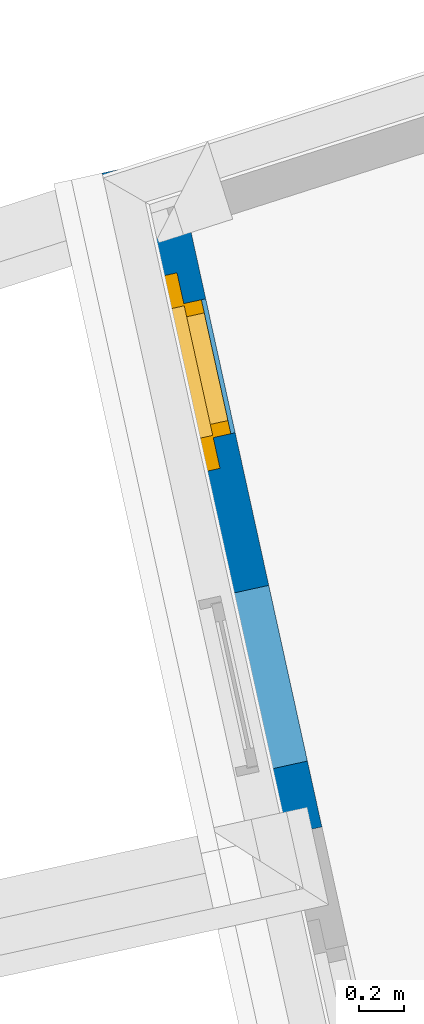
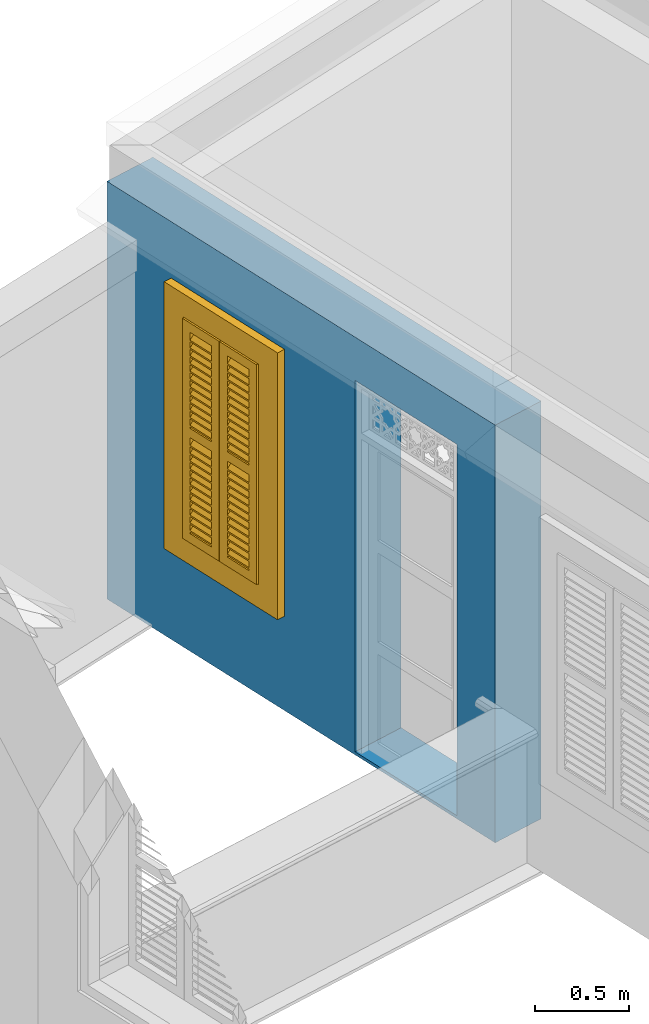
# One storey, part 13 of 17: 1 wall, 1 window, 2 openings.
"""IFC4 building model written with IfcOpenShell, lengths in metres."""

import ifcopenshell
import ifcopenshell.guid

model = None  # the IFC model being written
_history = None  # IfcOwnerHistory: only IFC2X3 demands one
_inside = {}  # id of a spatial element -> (the spatial element, [elements in it])
_under = {}  # id of a project, library or spatial element -> (it, [spatial elements below it])
_declared = {}  # id of a project -> (the project, [libraries it declares])
_typed = {}  # id of a type object -> (the type object, [elements of that type])
_made_of = {}  # id of a material, layer set ... -> (it, [elements and type objects made of it])


def new_model(schema):
    """Start an empty IFC model of exactly this schema.

    Asked for "IFC4X3", IfcOpenShell would pick the latest addendum, in which some entities
    have other attributes; the version numbers below select the first issue.
    IFC2X3 requires an IfcOwnerHistory on every rooted entity: one is made here for all.
    """
    global model, _history
    if schema == "IFC4X3":
        model = ifcopenshell.file(schema_version=(4, 3, 0, 0))
    else:
        model = ifcopenshell.file(schema=schema)
    _inside.clear()
    _under.clear()
    _declared.clear()
    _typed.clear()
    _made_of.clear()
    _history = None
    if model.schema == "IFC2X3":
        org = make("IfcOrganization", Name="unknown")
        user = make(
            "IfcPersonAndOrganization",
            ThePerson=make("IfcPerson", FamilyName="unknown"),
            TheOrganization=org,
        )
        app = make(
            "IfcApplication",
            ApplicationDeveloper=org,
            Version="unknown",
            ApplicationFullName="unknown",
            ApplicationIdentifier="unknown",
        )
        _history = make(
            "IfcOwnerHistory",
            OwningUser=user,
            OwningApplication=app,
            ChangeAction="ADDED",
            CreationDate=0,
        )
    return model


def make(cls, **values):
    """One entity of the class cls with the attributes given. An attribute that is None is left unset."""
    return model.create_entity(
        cls, **{name: value for name, value in values.items() if value is not None}
    )


def rooted(cls, **values):
    """An entity with a GlobalId (a new one), such as an element, a storey or a relation."""
    return make(cls, GlobalId=ifcopenshell.guid.new(), OwnerHistory=_history, **values)


def si_unit(unit_type, name, prefix=None):
    """IfcSIUnit, for example si_unit("LENGTHUNIT", "METRE", prefix="MILLI")."""
    return make("IfcSIUnit", UnitType=unit_type, Prefix=prefix, Name=name)


def assignment(units):
    """IfcUnitAssignment: the units of a project."""
    return None if units is None else make("IfcUnitAssignment", Units=units)


def point(xyz):
    """IfcCartesianPoint."""
    return None if xyz is None else make("IfcCartesianPoint", Coordinates=xyz)


def direction(xyz):
    """IfcDirection."""
    return None if xyz is None else make("IfcDirection", DirectionRatios=xyz)


def frame(location, z_axis=None, x_axis=None):
    """IfcAxis2Placement3D, a coordinate frame: its origin and axes. An axis left out is left unset."""
    return make(
        "IfcAxis2Placement3D",
        Location=point(location),
        Axis=direction(z_axis),
        RefDirection=direction(x_axis),
    )


def origin():
    """The frame at (0, 0, 0) with its axes left unset."""
    return frame((0.0, 0.0, 0.0))


def origin_with_axes():
    """The frame at (0, 0, 0) with the z axis (0, 0, 1) and the x axis (1, 0, 0) written out."""
    return frame((0.0, 0.0, 0.0), z_axis=(0.0, 0.0, 1.0), x_axis=(1.0, 0.0, 0.0))


def place(relative_to, where):
    """IfcLocalPlacement: puts the frame where relative to a parent placement (None: the world)."""
    return make(
        "IfcLocalPlacement", PlacementRelTo=relative_to, RelativePlacement=where
    )


def context(
    kind, dimensions, precision=None, world=None, true_north=None, identifier=None
):
    """IfcGeometricRepresentationContext, for example the 3D "Model" context."""
    return make(
        "IfcGeometricRepresentationContext",
        ContextIdentifier=identifier,
        ContextType=kind,
        CoordinateSpaceDimension=dimensions,
        Precision=precision,
        WorldCoordinateSystem=world,
        TrueNorth=true_north,
    )


def subcontext(parent, identifier, kind, view, scale=None):
    """IfcGeometricRepresentationSubContext, for example "Body" below "Model"."""
    return make(
        "IfcGeometricRepresentationSubContext",
        ContextIdentifier=identifier,
        ContextType=kind,
        ParentContext=parent,
        TargetScale=scale,
        TargetView=view,
    )


def project(units=None, contexts=None):
    """IfcProject with its units and contexts."""
    return rooted(
        "IfcProject",
        Name="project",
        RepresentationContexts=contexts,
        UnitsInContext=assignment(units),
    )


def spatial(cls, under=None, at=None, **own):
    """A site, building, storey or space (cls), placed at a placement, below another one or the project."""
    s = rooted(cls, ObjectPlacement=at, **own)
    if under is not None:
        _under.setdefault(under.id(), (under, []))[1].append(s)
    return s


def polyline(points):
    """IfcPolyline through the points."""
    return make("IfcPolyline", Points=[point(p) for p in points])


def outline(outer, holes=None, kind="AREA"):
    """IfcArbitraryClosedProfileDef: a profile drawn as a closed curve; with holes, ...WithVoids."""
    if holes is None:
        return make("IfcArbitraryClosedProfileDef", ProfileType=kind, OuterCurve=outer)
    return make(
        "IfcArbitraryProfileDefWithVoids",
        ProfileType=kind,
        OuterCurve=outer,
        InnerCurves=holes,
    )


def extrude(swept, where, along, depth):
    """IfcExtrudedAreaSolid: the profile swept, set in the frame where, extruded along a direction by depth."""
    return make(
        "IfcExtrudedAreaSolid",
        SweptArea=swept,
        Position=where,
        ExtrudedDirection=direction(along),
        Depth=depth,
    )


def faces_of(points, faces, orient=None, outer=None):
    """IfcFace entities. A face is a list of loops; a loop is a list of indices into points, from 0.

    orient and outer hold one flag for each loop. By default every Orientation is true, the
    first loop of a face is its IfcFaceOuterBound and the others are IfcFaceBound.
    """
    made = []
    for i, loops in enumerate(faces):
        bounds = []
        for j, loop in enumerate(loops):
            is_outer = j == 0 if outer is None else outer[i][j]
            bounds.append(
                make(
                    "IfcFaceOuterBound" if is_outer else "IfcFaceBound",
                    Bound=make("IfcPolyLoop", Polygon=[points[k] for k in loop]),
                    Orientation=True if orient is None else orient[i][j],
                )
            )
        made.append(make("IfcFace", Bounds=bounds))
    return made


def faceted_brep(points, faces, orient=None, outer=None, voids=None):
    """IfcFacetedBrep: a solid bounded by flat faces; with voids (closed shells), ...WithVoids."""
    shared = [point(p) for p in points]
    hull = make("IfcClosedShell", CfsFaces=faces_of(shared, faces, orient, outer))
    if voids is None:
        return make("IfcFacetedBrep", Outer=hull)
    return make(
        "IfcFacetedBrepWithVoids",
        Outer=hull,
        Voids=[
            make(cls, CfsFaces=faces_of(shared, fs, o, b)) for cls, fs, o, b in voids
        ],
    )


def shape(context_of_items, identifier, shape_type, items):
    """IfcShapeRepresentation: the items that make up one representation, for example the "Body"."""
    return make(
        "IfcShapeRepresentation",
        ContextOfItems=context_of_items,
        RepresentationIdentifier=identifier,
        RepresentationType=shape_type,
        Items=items,
    )


def source(mapping_origin, context_of_items, identifier, shape_type, items):
    """IfcRepresentationMap: a shape defined once, which mapped items show again and again."""
    return make(
        "IfcRepresentationMap",
        MappingOrigin=mapping_origin,
        MappedRepresentation=shape(context_of_items, identifier, shape_type, items),
    )


def transform(
    local_origin,
    x_axis=None,
    y_axis=None,
    z_axis=None,
    scale=None,
    scale2=None,
    scale3=None,
    uniform=True,
):
    """IfcCartesianTransformationOperator3D, or its non-uniform kind. x_axis, y_axis, z_axis: its Axis1, 2, 3."""
    if uniform:
        return make(
            "IfcCartesianTransformationOperator3D",
            Axis1=direction(x_axis),
            Axis2=direction(y_axis),
            LocalOrigin=point(local_origin),
            Scale=scale,
            Axis3=direction(z_axis),
        )
    return make(
        "IfcCartesianTransformationOperator3DnonUniform",
        Axis1=direction(x_axis),
        Axis2=direction(y_axis),
        LocalOrigin=point(local_origin),
        Scale=scale,
        Axis3=direction(z_axis),
        Scale2=scale2,
        Scale3=scale3,
    )


def mapped(mapping_source, mapping_target):
    """IfcMappedItem: shows the shape of a source again, moved by a transform."""
    return make(
        "IfcMappedItem", MappingSource=mapping_source, MappingTarget=mapping_target
    )


def material(Name=None, Category=None):
    """IfcMaterial."""
    return make("IfcMaterial", Name=Name, Category=Category)


def layer(
    of_material, thickness, ventilated=None, Name=None, Category=None, Priority=None
):
    """IfcMaterialLayer: one layer of a wall or slab, of a material (None: an air gap)."""
    return make(
        "IfcMaterialLayer",
        Material=of_material,
        LayerThickness=thickness,
        IsVentilated=ventilated,
        Name=Name,
        Category=Category,
        Priority=Priority,
    )


def layer_set(layers, Name=None):
    """IfcMaterialLayerSet."""
    return make("IfcMaterialLayerSet", MaterialLayers=layers, LayerSetName=Name)


def layer_usage(for_layer_set, set_direction, sense, offset, extent=None):
    """IfcMaterialLayerSetUsage: how a layer set lies in its element."""
    return make(
        "IfcMaterialLayerSetUsage",
        ForLayerSet=for_layer_set,
        LayerSetDirection=set_direction,
        DirectionSense=sense,
        OffsetFromReferenceLine=offset,
        ReferenceExtent=extent,
    )


def made_of(thing, what):
    """Note that an element or type object is made of a material, layer set ...; save() writes the relation."""
    if what is not None:
        _made_of.setdefault(what.id(), (what, []))[1].append(thing)
    return thing


def type_object(cls, material=None, **own):
    """A type object (cls), such as IfcWallType, which elements share."""
    return made_of(rooted(cls, **own), material)


def type_shapes(of_type, sources):
    """Give a type object the sources (RepresentationMaps) that its elements show as mapped items."""
    of_type.RepresentationMaps = sources


def element(
    cls,
    number,
    at=None,
    inside=None,
    cuts=None,
    type_object=None,
    material=None,
    context=None,
    identifier="Body",
    shape_type=None,
    held_by="IfcProductDefinitionShape",
    body=None,
    shapes=None,
    **own,
):
    """One element of the class cls, such as IfcWall. Its Tag is "e" and its number.

    at: its placement. inside: the storey or other place that contains it. cuts: it is an
    opening in that element (IfcRelVoidsElement). A single representation is given by context,
    identifier, shape_type and body (its items); several are given by shapes. held_by: the class
    of the entity that holds the representations. save() writes the other relations.
    """
    e = rooted(cls, Tag="e%d" % number, ObjectPlacement=at, **own)
    if body is not None:
        shapes = [shape(context, identifier, shape_type, body)]
    if shapes is not None:
        e.Representation = make(held_by, Representations=shapes)
    if inside is not None:
        _inside.setdefault(inside.id(), (inside, []))[1].append(e)
    if cuts is not None:
        rooted(
            "IfcRelVoidsElement", RelatingBuildingElement=cuts, RelatedOpeningElement=e
        )
    if type_object is not None:
        _typed.setdefault(type_object.id(), (type_object, []))[1].append(e)
    return made_of(e, material)


def fill(opening, filler):
    """IfcRelFillsElement: the door or window that sits in an opening."""
    return rooted(
        "IfcRelFillsElement",
        RelatingOpeningElement=opening,
        RelatedBuildingElement=filler,
    )


def aggregate(whole, parts):
    """IfcRelAggregates: a whole, such as a stair, and the parts it consists of."""
    return rooted("IfcRelAggregates", RelatingObject=whole, RelatedObjects=parts)


def save(model, path):
    """Write the relations noted so far, then the file.

    IfcRelAggregates (storeys below a building ...), IfcRelContainedInSpatialStructure (elements
    in a storey), IfcRelDefinesByType, IfcRelAssociatesMaterial and IfcRelDeclares: one each for
    every whole, place, type object, material and project.
    """
    for whole, parts in _under.values():
        aggregate(whole, parts)
    for where, things in _inside.values():
        rooted(
            "IfcRelContainedInSpatialStructure",
            RelatedElements=things,
            RelatingStructure=where,
        )
    for kind, things in _typed.values():
        rooted("IfcRelDefinesByType", RelatedObjects=things, RelatingType=kind)
    for what, things in _made_of.values():
        rooted("IfcRelAssociatesMaterial", RelatedObjects=things, RelatingMaterial=what)
    for by, libraries in _declared.values():
        rooted("IfcRelDeclares", RelatingContext=by, RelatedDefinitions=libraries)
    model.write(path)


model = new_model("IFC4")

# Units and contexts
model_context = context("Model", 3, world=origin_with_axes())
body_context = subcontext(model_context, "Body", "Model", "MODEL_VIEW")
ifc_project = project(units=[si_unit("PLANEANGLEUNIT", "RADIAN"), si_unit("MASSUNIT", "GRAM", prefix="KILO"), si_unit("FORCEUNIT", "NEWTON", prefix="KILO"), si_unit("LENGTHUNIT", "METRE"), si_unit("AREAUNIT", "SQUARE_METRE"), si_unit("VOLUMEUNIT", "CUBIC_METRE")], contexts=[model_context, model_context])

# Site, building, storey
site_placement = place(None, origin_with_axes())
site = spatial("IfcSite", under=ifc_project, at=site_placement, Name="Site plot-2", CompositionType="ELEMENT")
building_placement = place(None, origin_with_axes())
building = spatial("IfcBuilding", under=site, at=building_placement, Name="Building plot-2", CompositionType="ELEMENT")
storey_placement = place(None, frame((0.0, 0.0, 2.85), z_axis=(0.0, 0.0, 1.0), x_axis=(1.0, 0.0, 0.0)))
storey = spatial("IfcBuildingStorey", under=building, at=storey_placement, Name="plot-2 1", CompositionType="ELEMENT", Elevation=2.85)

# Wall, openings, window
ifc_material = material(Name="Masonry")
ifc_layer = layer(ifc_material, 0.33, ventilated=False)
ifc_layer_set = layer_set([ifc_layer], Name="exterior_0.08_0.25")
ifc_layer_usage = layer_usage(ifc_layer_set, "AXIS2", "POSITIVE", -0.25)
wall_type = type_object("IfcWallType", Name="exterior_0.08_0.25", PredefinedType="SOLIDWALL", material=ifc_layer_set)
wall_placement = place(storey_placement, frame((14.8834946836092, 16.0532428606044, 0.0), z_axis=(0.0, 0.0, 1.0), x_axis=(0.214808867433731, -0.976656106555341, 0.0)))
wall = element("IfcWall", 1, at=wall_placement, inside=storey, type_object=wall_type, material=ifc_layer_usage, Name="exterior", context=body_context, shape_type="SweptSolid", body=[
    extrude(outline(polyline([(-0.249999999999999, 0.0800000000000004), (-0.249999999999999, -0.25), (2.79897850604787, -0.25), (2.79897850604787, 0.0800000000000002), (-0.249999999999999, 0.0800000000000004)])), origin_with_axes(), (0.0, 0.0, 1.0), 2.7),
])
opening_1_placement = place(wall_placement, frame((0.394744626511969, 0.0, 0.75)))
opening_1 = element("IfcOpeningElement", 2, at=opening_1_placement, cuts=wall, Name="My Opening", ObjectType="Opening", context=body_context, shape_type="SweptSolid", body=[
    extrude(outline(polyline([(0.0, -0.27), (0.609999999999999, -0.270000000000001), (0.61, 1.1), (5.55111512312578e-16, 1.1), (0.0, -0.27)])), origin_with_axes(), (0.0, 0.0, 1.0), 1.445),
])
opening_2_placement = place(wall_placement, frame((1.6992338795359, 0.0, 0.02)))
element("IfcOpeningElement", 3, at=opening_2_placement, cuts=wall, Name="My Opening", ObjectType="Opening", context=body_context, shape_type="SweptSolid", body=[
    extrude(outline(polyline([(0.0, -0.27), (0.800000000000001, -0.270000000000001), (0.800000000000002, 1.1), (6.66133814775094e-16, 1.1), (0.0, -0.27)])), origin_with_axes(), (0.0, 0.0, 1.0), 2.4),
])
window_type = type_object("IfcWindowType", Name="shuttered_shorter_narrow", PartitioningType="DOUBLE_PANEL_HORIZONTAL", PredefinedType="NOTDEFINED")
shared_shape = source(origin(), body_context, "Body", "Brep", [
    faceted_brep([(0.243, 0.0, 0.622), (0.074, 0.0, 0.622), (0.074, 0.0, 0.632), (0.243, 0.0, 0.632), (0.074, -0.04, 0.592), (0.243, -0.04, 0.592), (0.243, -0.04, 0.582), (0.074, -0.04, 0.582), (0.367, 0.0, 0.682), (0.536, 0.0, 0.682), (0.536, 0.0, 0.672), (0.367, 0.0, 0.672), (0.367, -0.04, 0.642), (0.536, -0.04, 0.642), (0.536, -0.04, 0.632), (0.367, -0.04, 0.632), (0.367, 0.0, 0.632), (0.536, 0.0, 0.632), (0.536, 0.0, 0.622), (0.367, 0.0, 0.622), (0.367, -0.04, 0.592), (0.536, -0.04, 0.592), (0.536, -0.04, 0.582), (0.367, -0.04, 0.582), (0.367, 0.0, 0.232), (0.536, 0.0, 0.232), (0.536, 0.0, 0.222), (0.367, 0.0, 0.222), (0.367, -0.04, 0.192), (0.536, -0.04, 0.192), (0.536, -0.04, 0.182), (0.367, -0.04, 0.182), (0.367, 0.0, 0.532), (0.536, 0.0, 0.532), (0.536, 0.0, 0.522), (0.367, 0.0, 0.522), (0.367, -0.04, 0.492), (0.536, -0.04, 0.492), (0.536, -0.04, 0.482), (0.367, -0.04, 0.482), (0.367, 0.0, 0.482), (0.536, 0.0, 0.482), (0.536, 0.0, 0.472), (0.367, 0.0, 0.472), (0.367, -0.04, 0.442), (0.536, -0.04, 0.442), (0.536, -0.04, 0.432), (0.367, -0.04, 0.432), (0.367, 0.0, 0.582), (0.536, 0.0, 0.582), (0.536, 0.0, 0.572), (0.367, 0.0, 0.572), (0.367, -0.04, 0.542), (0.536, -0.04, 0.542), (0.536, -0.04, 0.532), (0.367, -0.04, 0.532), (0.367, 0.0, 0.182), (0.536, 0.0, 0.182), (0.536, 0.0, 0.172), (0.367, 0.0, 0.172), (0.367, -0.04, 0.142), (0.536, -0.04, 0.142), (0.536, -0.04, 0.132), (0.367, -0.04, 0.132), (0.367, 0.0, 0.382), (0.536, 0.0, 0.382), (0.536, 0.0, 0.372), (0.367, 0.0, 0.372), (0.367, -0.04, 0.342), (0.536, -0.04, 0.342), (0.536, -0.04, 0.332), (0.367, -0.04, 0.332), (0.367, 0.0, 0.432), (0.536, 0.0, 0.432), (0.536, 0.0, 0.422), (0.367, 0.0, 0.422), (0.367, -0.04, 0.392), (0.536, -0.04, 0.392), (0.536, -0.04, 0.382), (0.367, -0.04, 0.382), (0.367, 0.0, 0.132), (0.536, 0.0, 0.132), (0.536, 0.0, 0.122), (0.367, 0.0, 0.122), (0.367, -0.04, 0.092), (0.536, -0.04, 0.092), (0.536, -0.04, 0.082), (0.367, -0.04, 0.082), (0.367, 0.0, 0.282), (0.536, 0.0, 0.282), (0.536, 0.0, 0.272), (0.367, 0.0, 0.272), (0.367, -0.04, 0.242), (0.536, -0.04, 0.242), (0.536, -0.04, 0.232), (0.367, -0.04, 0.232), (0.367, 0.0, 0.332), (0.536, 0.0, 0.332), (0.536, 0.0, 0.322), (0.367, 0.0, 0.322), (0.367, -0.04, 0.292), (0.536, -0.04, 0.292), (0.536, -0.04, 0.282), (0.367, -0.04, 0.282), (0.367, 0.0, 1.362667), (0.536, 0.0, 1.362667), (0.536, 0.0, 1.352667), (0.367, 0.0, 1.352667), (0.367, -0.04, 1.322667), (0.536, -0.04, 1.322667), (0.536, -0.04, 1.312667), (0.367, -0.04, 1.312667), (0.367, 0.0, 1.312667), (0.536, 0.0, 1.312667), (0.536, 0.0, 1.302667), (0.367, 0.0, 1.302667), (0.367, -0.04, 1.272667), (0.536, -0.04, 1.272667), (0.536, -0.04, 1.262667), (0.367, -0.04, 1.262667), (0.367, 0.0, 0.912667), (0.536, 0.0, 0.912667), (0.536, 0.0, 0.902667), (0.367, 0.0, 0.902667), (0.367, -0.04, 0.872667), (0.536, -0.04, 0.872667), (0.536, -0.04, 0.862667), (0.367, -0.04, 0.862667), (0.367, 0.0, 1.212667), (0.536, 0.0, 1.212667), (0.536, 0.0, 1.202667), (0.367, 0.0, 1.202667), (0.367, -0.04, 1.172667), (0.536, -0.04, 1.172667), (0.536, -0.04, 1.162667), (0.367, -0.04, 1.162667), (0.367, 0.0, 1.162667), (0.536, 0.0, 1.162667), (0.536, 0.0, 1.152667), (0.367, 0.0, 1.152667), (0.367, -0.04, 1.122667), (0.536, -0.04, 1.122667), (0.536, -0.04, 1.112667), (0.367, -0.04, 1.112667), (0.367, 0.0, 1.262667), (0.536, 0.0, 1.262667), (0.536, 0.0, 1.252667), (0.367, 0.0, 1.252667), (0.367, -0.04, 1.222667), (0.536, -0.04, 1.222667), (0.536, -0.04, 1.212667), (0.367, -0.04, 1.212667), (0.367, 0.0, 0.862667), (0.536, 0.0, 0.862667), (0.536, 0.0, 0.852667), (0.367, 0.0, 0.852667), (0.367, -0.04, 0.822667), (0.536, -0.04, 0.822667), (0.536, -0.04, 0.812667), (0.367, -0.04, 0.812667), (0.367, 0.0, 1.062667), (0.536, 0.0, 1.062667), (0.536, 0.0, 1.052667), (0.367, 0.0, 1.052667), (0.367, -0.04, 1.022667), (0.536, -0.04, 1.022667), (0.536, -0.04, 1.012667), (0.367, -0.04, 1.012667), (0.367, 0.0, 1.112667), (0.536, 0.0, 1.112667), (0.536, 0.0, 1.102667), (0.367, 0.0, 1.102667), (0.367, -0.04, 1.072667), (0.536, -0.04, 1.072667), (0.536, -0.04, 1.062667), (0.367, -0.04, 1.062667), (0.367, 0.0, 0.812667), (0.536, 0.0, 0.812667), (0.536, 0.0, 0.802667), (0.367, 0.0, 0.802667), (0.367, -0.04, 0.772667), (0.536, -0.04, 0.772667), (0.536, -0.04, 0.762667), (0.367, -0.04, 0.762667), (0.367, 0.0, 0.962667), (0.536, 0.0, 0.962667), (0.536, 0.0, 0.952667), (0.367, 0.0, 0.952667), (0.367, -0.04, 0.922667), (0.536, -0.04, 0.922667), (0.536, -0.04, 0.912667), (0.367, -0.04, 0.912667), (0.367, 0.0, 1.012667), (0.536, 0.0, 1.012667), (0.536, 0.0, 1.002667), (0.367, 0.0, 1.002667), (0.367, -0.04, 0.972667), (0.536, -0.04, 0.972667), (0.536, -0.04, 0.962667), (0.367, -0.04, 0.962667), (0.074, 0.0, 0.682), (0.243, 0.0, 0.682), (0.243, 0.0, 0.672), (0.074, 0.0, 0.672), (0.074, -0.04, 0.642), (0.243, -0.04, 0.642), (0.243, -0.04, 0.632), (0.074, -0.04, 0.632), (0.074, 0.0, 0.232), (0.243, 0.0, 0.232), (0.243, 0.0, 0.222), (0.074, 0.0, 0.222), (0.074, -0.04, 0.192), (0.243, -0.04, 0.192), (0.243, -0.04, 0.182), (0.074, -0.04, 0.182), (0.074, 0.0, 0.532), (0.243, 0.0, 0.532), (0.243, 0.0, 0.522), (0.074, 0.0, 0.522), (0.074, -0.04, 0.492), (0.243, -0.04, 0.492), (0.243, -0.04, 0.482), (0.074, -0.04, 0.482), (0.074, 0.0, 0.482), (0.243, 0.0, 0.482), (0.243, 0.0, 0.472), (0.074, 0.0, 0.472), (0.074, -0.04, 0.442), (0.243, -0.04, 0.442), (0.243, -0.04, 0.432), (0.074, -0.04, 0.432), (0.074, 0.0, 0.582), (0.243, 0.0, 0.582), (0.243, 0.0, 0.572), (0.074, 0.0, 0.572), (0.074, -0.04, 0.542), (0.243, -0.04, 0.542), (0.243, -0.04, 0.532), (0.074, -0.04, 0.532), (0.074, 0.0, 0.182), (0.243, 0.0, 0.182), (0.243, 0.0, 0.172), (0.074, 0.0, 0.172), (0.074, -0.04, 0.142), (0.243, -0.04, 0.142), (0.243, -0.04, 0.132), (0.074, -0.04, 0.132), (0.074, 0.0, 0.382), (0.243, 0.0, 0.382), (0.243, 0.0, 0.372), (0.074, 0.0, 0.372), (0.074, -0.04, 0.342), (0.243, -0.04, 0.342), (0.243, -0.04, 0.332), (0.074, -0.04, 0.332), (0.074, 0.0, 0.432), (0.243, 0.0, 0.432), (0.243, 0.0, 0.422), (0.074, 0.0, 0.422), (0.074, -0.04, 0.392), (0.243, -0.04, 0.392), (0.243, -0.04, 0.382), (0.074, -0.04, 0.382), (0.074, 0.0, 0.132), (0.243, 0.0, 0.132), (0.243, 0.0, 0.122), (0.074, 0.0, 0.122), (0.074, -0.04, 0.092), (0.243, -0.04, 0.092), (0.243, -0.04, 0.082), (0.074, -0.04, 0.082), (0.074, 0.0, 0.282), (0.243, 0.0, 0.282), (0.243, 0.0, 0.272), (0.074, 0.0, 0.272), (0.074, -0.04, 0.242), (0.243, -0.04, 0.242), (0.243, -0.04, 0.232), (0.074, -0.04, 0.232), (0.074, 0.0, 0.332), (0.243, 0.0, 0.332), (0.243, 0.0, 0.322), (0.074, 0.0, 0.322), (0.074, -0.04, 0.292), (0.243, -0.04, 0.292), (0.243, -0.04, 0.282), (0.074, -0.04, 0.282), (0.074, 0.0, 1.362667), (0.243, 0.0, 1.362667), (0.243, 0.0, 1.352667), (0.074, 0.0, 1.352667), (0.074, -0.04, 1.322667), (0.243, -0.04, 1.322667), (0.243, -0.04, 1.312667), (0.074, -0.04, 1.312667), (0.074, 0.0, 1.312667), (0.243, 0.0, 1.312667), (0.243, 0.0, 1.302667), (0.074, 0.0, 1.302667), (0.074, -0.04, 1.272667), (0.243, -0.04, 1.272667), (0.243, -0.04, 1.262667), (0.074, -0.04, 1.262667), (0.074, 0.0, 0.912667), (0.243, 0.0, 0.912667), (0.243, 0.0, 0.902667), (0.074, 0.0, 0.902667), (0.074, -0.04, 0.872667), (0.243, -0.04, 0.872667), (0.243, -0.04, 0.862667), (0.074, -0.04, 0.862667), (0.074, 0.0, 1.212667), (0.243, 0.0, 1.212667), (0.243, 0.0, 1.202667), (0.074, 0.0, 1.202667), (0.074, -0.04, 1.172667), (0.243, -0.04, 1.172667), (0.243, -0.04, 1.162667), (0.074, -0.04, 1.162667), (0.074, 0.0, 1.162667), (0.243, 0.0, 1.162667), (0.243, 0.0, 1.152667), (0.074, 0.0, 1.152667), (0.074, -0.04, 1.122667), (0.243, -0.04, 1.122667), (0.243, -0.04, 1.112667), (0.074, -0.04, 1.112667), (0.074, 0.0, 1.262667), (0.243, 0.0, 1.262667), (0.243, 0.0, 1.252667), (0.074, 0.0, 1.252667), (0.074, -0.04, 1.222667), (0.243, -0.04, 1.222667), (0.243, -0.04, 1.212667), (0.074, -0.04, 1.212667), (0.074, 0.0, 0.862667), (0.243, 0.0, 0.862667), (0.243, 0.0, 0.852667), (0.074, 0.0, 0.852667), (0.074, -0.04, 0.822667), (0.243, -0.04, 0.822667), (0.243, -0.04, 0.812667), (0.074, -0.04, 0.812667), (0.074, 0.0, 1.062667), (0.243, 0.0, 1.062667), (0.243, 0.0, 1.052667), (0.074, 0.0, 1.052667), (0.074, -0.04, 1.022667), (0.243, -0.04, 1.022667), (0.243, -0.04, 1.012667), (0.074, -0.04, 1.012667), (0.074, 0.0, 1.112667), (0.243, 0.0, 1.112667), (0.243, 0.0, 1.102667), (0.074, 0.0, 1.102667), (0.074, -0.04, 1.072667), (0.243, -0.04, 1.072667), (0.243, -0.04, 1.062667), (0.074, -0.04, 1.062667), (0.074, 0.0, 0.812667), (0.243, 0.0, 0.812667), (0.243, 0.0, 0.802667), (0.074, 0.0, 0.802667), (0.074, -0.04, 0.772667), (0.243, -0.04, 0.772667), (0.243, -0.04, 0.762667), (0.074, -0.04, 0.762667), (0.074, 0.0, 0.962667), (0.243, 0.0, 0.962667), (0.243, 0.0, 0.952667), (0.074, 0.0, 0.952667), (0.074, -0.04, 0.922667), (0.243, -0.04, 0.922667), (0.243, -0.04, 0.912667), (0.074, -0.04, 0.912667), (0.074, 0.0, 1.012667), (0.243, 0.0, 1.012667), (0.243, 0.0, 1.002667), (0.074, 0.0, 1.002667), (0.074, -0.04, 0.972667), (0.243, -0.04, 0.972667), (0.243, -0.04, 0.962667), (0.074, -0.04, 0.962667), (0.367, -0.04, 0.072), (0.307, -0.04, 0.012), (0.596, -0.04, 0.012), (0.536, -0.04, 0.072), (0.307, -0.04, 0.692667), (0.367, -0.04, 0.692667), (0.307, 0.0, 0.012), (0.596, 0.0, 0.012), (0.536, -0.04, 0.692667), (0.596, -0.04, 0.692667), (0.536, 0.0, 0.072), (0.367, 0.0, 0.072), (0.307, 0.0, 0.692667), (0.367, 0.0, 0.692667), (0.367, -0.04, 0.752666), (0.307, -0.04, 0.752666), (0.596, 0.0, 0.692667), (0.536, 0.0, 0.692667), (0.536, -0.04, 0.752666), (0.596, -0.04, 0.752666), (0.307, 0.0, 0.752666), (0.307, -0.04, 1.433333), (0.367, -0.04, 1.373333), (0.596, 0.0, 0.752666), (0.536, -0.04, 1.373333), (0.596, -0.04, 1.433333), (0.307, 0.0, 1.433333), (0.367, 0.0, 0.752666), (0.536, 0.0, 0.752666), (0.367, 0.0, 1.373333), (0.596, 0.0, 1.433333), (0.536, 0.0, 1.373333), (0.074, -0.04, 0.072), (0.014, -0.04, 0.012), (0.303, -0.04, 0.012), (0.243, -0.04, 0.072), (0.014, -0.04, 0.692667), (0.074, -0.04, 0.692667), (0.014, 0.0, 0.012), (0.303, 0.0, 0.012), (0.243, -0.04, 0.692667), (0.303, -0.04, 0.692667), (0.243, 0.0, 0.072), (0.074, 0.0, 0.072), (0.014, 0.0, 0.692667), (0.074, 0.0, 0.692667), (0.074, -0.04, 0.752666), (0.014, -0.04, 0.752666), (0.303, 0.0, 0.692667), (0.243, 0.0, 0.692667), (0.243, -0.04, 0.752666), (0.303, -0.04, 0.752666), (0.014, 0.0, 0.752666), (0.014, -0.04, 1.433333), (0.074, -0.04, 1.373333), (0.303, 0.0, 0.752666), (0.243, -0.04, 1.373333), (0.303, -0.04, 1.433333), (0.014, 0.0, 1.433333), (0.074, 0.0, 0.752666), (0.243, 0.0, 0.752666), (0.074, 0.0, 1.373333), (0.303, 0.0, 1.433333), (0.243, 0.0, 1.373333), (0.0, 0.33, 1.445), (0.61, 0.33, 1.445), (0.55, 0.33, 1.385), (0.06, 0.33, 1.385), (0.61, 0.25, 1.445), (0.0, 0.25, 1.445), (0.61, 0.25, 1.445), (0.55, 0.33, 0.06), (0.61, 0.33, 0.0), (0.55, 0.25, 1.385), (0.06, 0.25, 1.385), (0.0, 0.33, 0.0), (0.06, 0.33, 0.06), (0.0, 0.25, 0.0), (0.61, 0.25, 0.0), (0.55, 0.25, 0.06), (0.06, 0.25, 0.06), (0.75, 0.25, 1.585), (-0.14, 0.25, 1.585), (-0.14, -0.03, 1.585), (0.75, -0.03, 1.585), (0.6, -0.03, 1.435), (0.01, -0.03, 1.435), (0.01, 0.25, 1.435), (0.6, 0.25, 1.435), (0.6, 0.25, 0.01), (0.6, -0.03, 0.01), (0.75, -0.03, -0.14), (0.75, 0.25, -0.14), (0.01, -0.03, 0.01), (0.01, 0.25, 0.01), (-0.14, -0.03, -0.14), (-0.14, 0.25, -0.14)], [[[0, 1, 2, 3]], [[4, 5, 3, 2]], [[5, 6, 0, 3]], [[1, 0, 6, 7]], [[2, 1, 7, 4]], [[5, 4, 7, 6]], [[8, 9, 10, 11]], [[12, 13, 9, 8]], [[13, 14, 10, 9]], [[14, 15, 11, 10]], [[15, 12, 8, 11]], [[13, 12, 15, 14]], [[16, 17, 18, 19]], [[20, 21, 17, 16]], [[21, 22, 18, 17]], [[22, 23, 19, 18]], [[23, 20, 16, 19]], [[21, 20, 23, 22]], [[24, 25, 26, 27]], [[28, 29, 25, 24]], [[29, 30, 26, 25]], [[30, 31, 27, 26]], [[31, 28, 24, 27]], [[29, 28, 31, 30]], [[32, 33, 34, 35]], [[36, 37, 33, 32]], [[37, 38, 34, 33]], [[38, 39, 35, 34]], [[39, 36, 32, 35]], [[37, 36, 39, 38]], [[40, 41, 42, 43]], [[44, 45, 41, 40]], [[45, 46, 42, 41]], [[46, 47, 43, 42]], [[47, 44, 40, 43]], [[45, 44, 47, 46]], [[48, 49, 50, 51]], [[52, 53, 49, 48]], [[53, 54, 50, 49]], [[54, 55, 51, 50]], [[55, 52, 48, 51]], [[53, 52, 55, 54]], [[56, 57, 58, 59]], [[60, 61, 57, 56]], [[61, 62, 58, 57]], [[62, 63, 59, 58]], [[63, 60, 56, 59]], [[61, 60, 63, 62]], [[64, 65, 66, 67]], [[68, 69, 65, 64]], [[69, 70, 66, 65]], [[70, 71, 67, 66]], [[71, 68, 64, 67]], [[69, 68, 71, 70]], [[72, 73, 74, 75]], [[76, 77, 73, 72]], [[77, 78, 74, 73]], [[78, 79, 75, 74]], [[79, 76, 72, 75]], [[77, 76, 79, 78]], [[80, 81, 82, 83]], [[84, 85, 81, 80]], [[85, 86, 82, 81]], [[86, 87, 83, 82]], [[87, 84, 80, 83]], [[85, 84, 87, 86]], [[88, 89, 90, 91]], [[92, 93, 89, 88]], [[93, 94, 90, 89]], [[94, 95, 91, 90]], [[95, 92, 88, 91]], [[93, 92, 95, 94]], [[96, 97, 98, 99]], [[100, 101, 97, 96]], [[101, 102, 98, 97]], [[102, 103, 99, 98]], [[103, 100, 96, 99]], [[101, 100, 103, 102]], [[104, 105, 106, 107]], [[108, 109, 105, 104]], [[109, 110, 106, 105]], [[110, 111, 107, 106]], [[111, 108, 104, 107]], [[109, 108, 111, 110]], [[112, 113, 114, 115]], [[116, 117, 113, 112]], [[117, 118, 114, 113]], [[118, 119, 115, 114]], [[119, 116, 112, 115]], [[117, 116, 119, 118]], [[120, 121, 122, 123]], [[124, 125, 121, 120]], [[125, 126, 122, 121]], [[126, 127, 123, 122]], [[127, 124, 120, 123]], [[125, 124, 127, 126]], [[128, 129, 130, 131]], [[132, 133, 129, 128]], [[133, 134, 130, 129]], [[134, 135, 131, 130]], [[135, 132, 128, 131]], [[133, 132, 135, 134]], [[136, 137, 138, 139]], [[140, 141, 137, 136]], [[141, 142, 138, 137]], [[142, 143, 139, 138]], [[139, 143, 140, 136]], [[141, 140, 143, 142]], [[144, 145, 146, 147]], [[148, 149, 145, 144]], [[149, 150, 146, 145]], [[150, 151, 147, 146]], [[151, 148, 144, 147]], [[149, 148, 151, 150]], [[152, 153, 154, 155]], [[156, 157, 153, 152]], [[157, 158, 154, 153]], [[158, 159, 155, 154]], [[159, 156, 152, 155]], [[157, 156, 159, 158]], [[160, 161, 162, 163]], [[164, 165, 161, 160]], [[165, 166, 162, 161]], [[166, 167, 163, 162]], [[167, 164, 160, 163]], [[165, 164, 167, 166]], [[168, 169, 170, 171]], [[172, 173, 169, 168]], [[173, 174, 170, 169]], [[174, 175, 171, 170]], [[175, 172, 168, 171]], [[173, 172, 175, 174]], [[176, 177, 178, 179]], [[180, 181, 177, 176]], [[181, 182, 178, 177]], [[182, 183, 179, 178]], [[183, 180, 176, 179]], [[181, 180, 183, 182]], [[184, 185, 186, 187]], [[188, 189, 185, 184]], [[189, 190, 186, 185]], [[190, 191, 187, 186]], [[191, 188, 184, 187]], [[189, 188, 191, 190]], [[192, 193, 194, 195]], [[196, 197, 193, 192]], [[197, 198, 194, 193]], [[198, 199, 195, 194]], [[199, 196, 192, 195]], [[197, 196, 199, 198]], [[200, 201, 202, 203]], [[204, 205, 201, 200]], [[205, 206, 202, 201]], [[206, 207, 203, 202]], [[207, 204, 200, 203]], [[205, 204, 207, 206]], [[208, 209, 210, 211]], [[212, 213, 209, 208]], [[213, 214, 210, 209]], [[214, 215, 211, 210]], [[215, 212, 208, 211]], [[213, 212, 215, 214]], [[216, 217, 218, 219]], [[220, 221, 217, 216]], [[221, 222, 218, 217]], [[222, 223, 219, 218]], [[223, 220, 216, 219]], [[221, 220, 223, 222]], [[224, 225, 226, 227]], [[228, 229, 225, 224]], [[229, 230, 226, 225]], [[230, 231, 227, 226]], [[231, 228, 224, 227]], [[229, 228, 231, 230]], [[232, 233, 234, 235]], [[236, 237, 233, 232]], [[237, 238, 234, 233]], [[238, 239, 235, 234]], [[239, 236, 232, 235]], [[237, 236, 239, 238]], [[240, 241, 242, 243]], [[244, 245, 241, 240]], [[245, 246, 242, 241]], [[246, 247, 243, 242]], [[247, 244, 240, 243]], [[245, 244, 247, 246]], [[248, 249, 250, 251]], [[252, 253, 249, 248]], [[253, 254, 250, 249]], [[254, 255, 251, 250]], [[255, 252, 248, 251]], [[253, 252, 255, 254]], [[256, 257, 258, 259]], [[260, 261, 257, 256]], [[261, 262, 258, 257]], [[262, 263, 259, 258]], [[263, 260, 256, 259]], [[261, 260, 263, 262]], [[264, 265, 266, 267]], [[268, 269, 265, 264]], [[269, 270, 266, 265]], [[270, 271, 267, 266]], [[271, 268, 264, 267]], [[269, 268, 271, 270]], [[272, 273, 274, 275]], [[276, 277, 273, 272]], [[277, 278, 274, 273]], [[278, 279, 275, 274]], [[279, 276, 272, 275]], [[277, 276, 279, 278]], [[280, 281, 282, 283]], [[284, 285, 281, 280]], [[285, 286, 282, 281]], [[286, 287, 283, 282]], [[287, 284, 280, 283]], [[285, 284, 287, 286]], [[288, 289, 290, 291]], [[292, 293, 289, 288]], [[293, 294, 290, 289]], [[294, 295, 291, 290]], [[295, 292, 288, 291]], [[293, 292, 295, 294]], [[296, 297, 298, 299]], [[300, 301, 297, 296]], [[301, 302, 298, 297]], [[302, 303, 299, 298]], [[303, 300, 296, 299]], [[301, 300, 303, 302]], [[304, 305, 306, 307]], [[308, 309, 305, 304]], [[309, 310, 306, 305]], [[310, 311, 307, 306]], [[311, 308, 304, 307]], [[309, 308, 311, 310]], [[312, 313, 314, 315]], [[316, 317, 313, 312]], [[317, 318, 314, 313]], [[318, 319, 315, 314]], [[319, 316, 312, 315]], [[317, 316, 319, 318]], [[320, 321, 322, 323]], [[324, 325, 321, 320]], [[325, 326, 322, 321]], [[326, 327, 323, 322]], [[327, 324, 320, 323]], [[325, 324, 327, 326]], [[328, 329, 330, 331]], [[332, 333, 329, 328]], [[333, 334, 330, 329]], [[334, 335, 331, 330]], [[335, 332, 328, 331]], [[333, 332, 335, 334]], [[336, 337, 338, 339]], [[340, 341, 337, 336]], [[341, 342, 338, 337]], [[342, 343, 339, 338]], [[343, 340, 336, 339]], [[341, 340, 343, 342]], [[344, 345, 346, 347]], [[348, 349, 345, 344]], [[349, 350, 346, 345]], [[350, 351, 347, 346]], [[351, 348, 344, 347]], [[349, 348, 351, 350]], [[352, 353, 354, 355]], [[356, 357, 353, 352]], [[357, 358, 354, 353]], [[358, 359, 355, 354]], [[359, 356, 352, 355]], [[357, 356, 359, 358]], [[360, 361, 362, 363]], [[364, 365, 361, 360]], [[365, 366, 362, 361]], [[366, 367, 363, 362]], [[367, 364, 360, 363]], [[365, 364, 367, 366]], [[368, 369, 370, 371]], [[372, 373, 369, 368]], [[373, 374, 370, 369]], [[374, 375, 371, 370]], [[375, 372, 368, 371]], [[373, 372, 375, 374]], [[376, 377, 378, 379]], [[380, 381, 377, 376]], [[381, 382, 378, 377]], [[382, 383, 379, 378]], [[383, 380, 376, 379]], [[381, 380, 383, 382]], [[384, 385, 386, 387]], [[388, 385, 384, 389]], [[390, 391, 386, 385]], [[392, 387, 386, 393]], [[384, 387, 394, 395]], [[390, 385, 388, 396]], [[389, 384, 395, 397]], [[389, 398, 399, 388]], [[390, 395, 394, 391]], [[400, 393, 386, 391]], [[387, 392, 401, 394]], [[402, 392, 393, 403]], [[396, 388, 399, 404]], [[390, 396, 397, 395]], [[392, 389, 397, 401]], [[398, 389, 392, 402]], [[405, 399, 398, 406]], [[394, 401, 400, 391]], [[407, 403, 393, 400]], [[408, 402, 403, 409]], [[404, 399, 405, 410]], [[411, 397, 396, 404]], [[397, 411, 412, 401]], [[398, 402, 412, 411]], [[406, 398, 411, 413]], [[405, 406, 408, 409]], [[401, 412, 407, 400]], [[414, 409, 403, 407]], [[402, 408, 415, 412]], [[405, 409, 414, 410]], [[404, 410, 413, 411]], [[408, 406, 413, 415]], [[412, 415, 414, 407]], [[413, 410, 414, 415]], [[416, 417, 418, 419]], [[420, 417, 416, 421]], [[422, 423, 418, 417]], [[424, 419, 418, 425]], [[416, 419, 426, 427]], [[422, 417, 420, 428]], [[421, 416, 427, 429]], [[421, 430, 431, 420]], [[422, 427, 426, 423]], [[432, 425, 418, 423]], [[419, 424, 433, 426]], [[434, 424, 425, 435]], [[428, 420, 431, 436]], [[422, 428, 429, 427]], [[424, 421, 429, 433]], [[430, 421, 424, 434]], [[437, 431, 430, 438]], [[426, 433, 432, 423]], [[439, 435, 425, 432]], [[440, 434, 435, 441]], [[436, 431, 437, 442]], [[443, 429, 428, 436]], [[429, 443, 444, 433]], [[430, 434, 444, 443]], [[438, 430, 443, 445]], [[437, 438, 440, 441]], [[433, 444, 439, 432]], [[446, 441, 435, 439]], [[434, 440, 447, 444]], [[437, 441, 446, 442]], [[436, 442, 445, 443]], [[440, 438, 445, 447]], [[444, 447, 446, 439]], [[445, 442, 446, 447]], [[448, 449, 450, 451]], [[452, 449, 448]], [[448, 453, 454]], [[448, 454, 452]], [[455, 450, 449, 456]], [[451, 450, 457, 458]], [[459, 448, 451, 460]], [[448, 459, 461, 453]], [[454, 453, 458, 457]], [[462, 452, 454]], [[454, 457, 463]], [[454, 463, 462]], [[456, 449, 452, 462]], [[450, 455, 463, 457]], [[456, 459, 460, 455]], [[460, 451, 458, 464]], [[459, 456, 462, 461]], [[464, 458, 453, 461]], [[461, 462, 463, 464]], [[455, 460, 464, 463]], [[465, 466, 467, 468]], [[469, 470, 471, 472]], [[473, 474, 469, 472]], [[465, 468, 475, 476]], [[470, 477, 478, 471]], [[474, 473, 478, 477]], [[474, 477, 479, 475]], [[470, 467, 479, 477]], [[470, 469, 468, 467]], [[474, 475, 468, 469]], [[471, 478, 480, 466]], [[473, 472, 465, 476]], [[473, 476, 480, 478]], [[466, 465, 472, 471]], [[480, 476, 475, 479]], [[480, 479, 467, 466]]]),
])
type_shapes(window_type, [shared_shape])
window_placement = place(storey_placement, frame((14.7045921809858, 15.6097147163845, 0.75), z_axis=(0.0, 0.0, 1.0), x_axis=(0.131033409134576, -0.595760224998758, 0.0)))
window = element("IfcWindow", 4, at=window_placement, inside=storey, type_object=window_type, Name="bedroom sahn window", OverallHeight=1.445, OverallWidth=0.61, context=body_context, shape_type="MappedRepresentation", body=[
    mapped(shared_shape, transform((0.0, 0.0, 0.0), scale=1.0)),
])
fill(opening_1, window)

save(model, "model.ifc")
